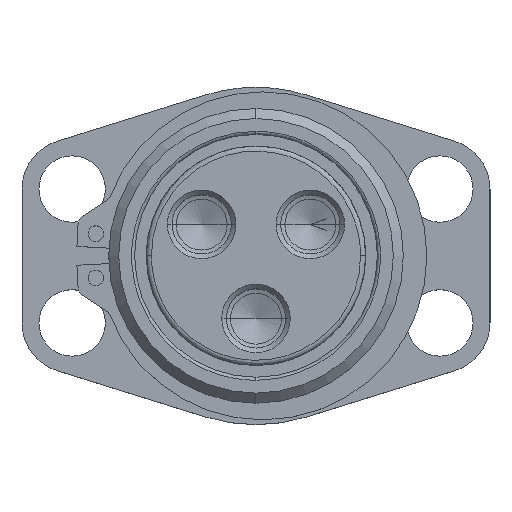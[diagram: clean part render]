
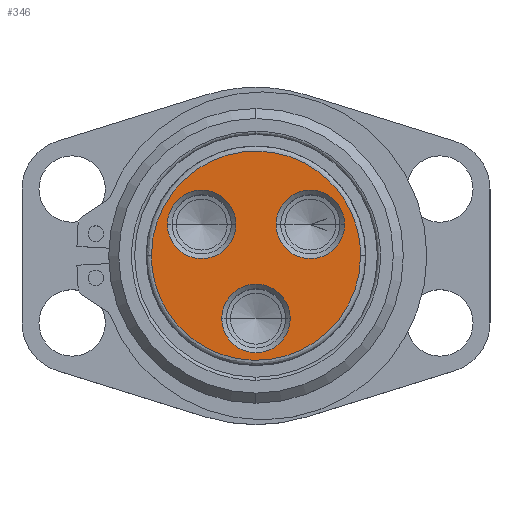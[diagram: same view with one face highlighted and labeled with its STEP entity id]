
A CAD part, top view. The second image highlights one B-rep face of the part: STEP entity #346.
In plain terms, the highlighted planar face has unit normal (0, 0, 1).
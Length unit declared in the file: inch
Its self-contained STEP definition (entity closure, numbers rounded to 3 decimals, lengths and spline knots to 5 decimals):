
#91 = EDGE_CURVE ( 'NONE', #629, #2414, #483, .T. ) ;
#121 = CARTESIAN_POINT ( 'NONE',  ( 0., -0.5, 0. ) ) ;
#156 = ORIENTED_EDGE ( 'NONE', *, *, #3775, .T. ) ;
#225 = AXIS2_PLACEMENT_3D ( 'NONE', #3165, #4596, #837 ) ;
#330 = EDGE_LOOP ( 'NONE', ( #156, #2007 ) ) ;
#346 = ADVANCED_FACE ( 'NONE', ( #3614, #2570, #5138, #1747 ), #3417, .T. ) ;
#460 = DIRECTION ( 'NONE',  ( 0., 0., -1. ) ) ;
#483 = CIRCLE ( 'NONE', #3044, 0.2731 ) ;
#505 = DIRECTION ( 'NONE',  ( 0., 0., -1. ) ) ;
#629 = VERTEX_POINT ( 'NONE', #5227 ) ;
#660 = DIRECTION ( 'NONE',  ( 1., 0., 0. ) ) ;
#689 = ORIENTED_EDGE ( 'NONE', *, *, #2689, .F. ) ;
#811 = CARTESIAN_POINT ( 'NONE',  ( -0.15991, 0.25, 0. ) ) ;
#837 = DIRECTION ( 'NONE',  ( 1., 0., 0. ) ) ;
#989 = CARTESIAN_POINT ( 'NONE',  ( -0.43301, 0.25, 0. ) ) ;
#1038 = DIRECTION ( 'NONE',  ( 1., 0., 0. ) ) ;
#1097 = DIRECTION ( 'NONE',  ( 0., 0., -1. ) ) ;
#1352 = CARTESIAN_POINT ( 'NONE',  ( -0.8341, 0., 0. ) ) ;
#1456 = DIRECTION ( 'NONE',  ( 0., 0., 1. ) ) ;
#1539 = CARTESIAN_POINT ( 'NONE',  ( 0.2731, -0.5, 0. ) ) ;
#1747 = FACE_BOUND ( 'NONE', #330, .T. ) ;
#1796 = VERTEX_POINT ( 'NONE', #3080 ) ;
#1817 = AXIS2_PLACEMENT_3D ( 'NONE', #4261, #460, #4696 ) ;
#2007 = ORIENTED_EDGE ( 'NONE', *, *, #91, .T. ) ;
#2024 = DIRECTION ( 'NONE',  ( 1., 0., 0. ) ) ;
#2249 = VERTEX_POINT ( 'NONE', #5513 ) ;
#2286 = CARTESIAN_POINT ( 'NONE',  ( 0.8341, 0., 0. ) ) ;
#2393 = CARTESIAN_POINT ( 'NONE',  ( 0., 0., 0. ) ) ;
#2414 = VERTEX_POINT ( 'NONE', #811 ) ;
#2466 = ORIENTED_EDGE ( 'NONE', *, *, #5715, .T. ) ;
#2563 = VERTEX_POINT ( 'NONE', #6201 ) ;
#2570 = FACE_BOUND ( 'NONE', #4022, .T. ) ;
#2596 = CARTESIAN_POINT ( 'NONE',  ( -0.43301, 0.25, 0. ) ) ;
#2670 = CIRCLE ( 'NONE', #6131, 0.2731 ) ;
#2689 = EDGE_CURVE ( 'NONE', #3296, #3696, #4592, .T. ) ;
#2783 = VERTEX_POINT ( 'NONE', #1539 ) ;
#2799 = AXIS2_PLACEMENT_3D ( 'NONE', #121, #1097, #4396 ) ;
#2847 = DIRECTION ( 'NONE',  ( 1., 0., 0. ) ) ;
#2882 = CARTESIAN_POINT ( 'NONE',  ( 0.43301, 0.25, 0. ) ) ;
#3044 = AXIS2_PLACEMENT_3D ( 'NONE', #989, #4795, #2847 ) ;
#3080 = CARTESIAN_POINT ( 'NONE',  ( 0.15991, 0.25, 0. ) ) ;
#3104 = CIRCLE ( 'NONE', #5376, 0.2731 ) ;
#3165 = CARTESIAN_POINT ( 'NONE',  ( 0.43301, 0.25, 0. ) ) ;
#3236 = ORIENTED_EDGE ( 'NONE', *, *, #4015, .T. ) ;
#3296 = VERTEX_POINT ( 'NONE', #5330 ) ;
#3386 = ORIENTED_EDGE ( 'NONE', *, *, #4067, .T. ) ;
#3417 = PLANE ( 'NONE',  #3901 ) ;
#3491 = CIRCLE ( 'NONE', #225, 0.2731 ) ;
#3519 = DIRECTION ( 'NONE',  ( 0., 0., -1. ) ) ;
#3614 = FACE_OUTER_BOUND ( 'NONE', #3915, .T. ) ;
#3696 = VERTEX_POINT ( 'NONE', #5262 ) ;
#3775 = EDGE_CURVE ( 'NONE', #2414, #629, #2670, .T. ) ;
#3781 = CARTESIAN_POINT ( 'NONE',  ( 0.8341, 1.6682, 0. ) ) ;
#3801 = CIRCLE ( 'NONE', #2799, 0.2731 ) ;
#3901 = AXIS2_PLACEMENT_3D ( 'NONE', #2393, #1456, #1038 ) ;
#3915 = EDGE_LOOP ( 'NONE', ( #5735, #689 ) ) ;
#4015 = EDGE_CURVE ( 'NONE', #1796, #2563, #3491, .T. ) ;
#4022 = EDGE_LOOP ( 'NONE', ( #3386, #6105 ) ) ;
#4067 = EDGE_CURVE ( 'NONE', #2783, #2249, #4622, .T. ) ;
#4261 = CARTESIAN_POINT ( 'NONE',  ( 0., -0.5, 0. ) ) ;
#4320 = CARTESIAN_POINT ( 'NONE',  ( -0.8341, 0., 0. ) ) ;
#4346 = CARTESIAN_POINT ( 'NONE',  ( 0.8341, 0., 0. ) ) ;
#4396 = DIRECTION ( 'NONE',  ( 1., 0., 0. ) ) ;
#4592 =( BOUNDED_CURVE ( )  B_SPLINE_CURVE ( 3, ( #4346, #4842, #5801, #4320 ),
 .UNSPECIFIED., .F., .F. ) 
 B_SPLINE_CURVE_WITH_KNOTS ( ( 4, 4 ),
 ( 0., 1. ),
 .UNSPECIFIED. ) 
 CURVE ( )  GEOMETRIC_REPRESENTATION_ITEM ( )  RATIONAL_B_SPLINE_CURVE ( ( 1., 0.333, 0.333, 1. ) ) 
 REPRESENTATION_ITEM ( '' )  );
#4596 = DIRECTION ( 'NONE',  ( 0., 0., -1. ) ) ;
#4622 = CIRCLE ( 'NONE', #1817, 0.2731 ) ;
#4696 = DIRECTION ( 'NONE',  ( 1., 0., 0. ) ) ;
#4795 = DIRECTION ( 'NONE',  ( 0., 0., -1. ) ) ;
#4810 = EDGE_LOOP ( 'NONE', ( #2466, #3236 ) ) ;
#4821 = EDGE_CURVE ( 'NONE', #3696, #3296, #6140, .T. ) ;
#4842 = CARTESIAN_POINT ( 'NONE',  ( 0.8341, -1.6682, 0. ) ) ;
#5138 = FACE_BOUND ( 'NONE', #4810, .T. ) ;
#5227 = CARTESIAN_POINT ( 'NONE',  ( -0.70611, 0.25, 0. ) ) ;
#5262 = CARTESIAN_POINT ( 'NONE',  ( -0.8341, 0., 0. ) ) ;
#5330 = CARTESIAN_POINT ( 'NONE',  ( 0.8341, 0., 0. ) ) ;
#5376 = AXIS2_PLACEMENT_3D ( 'NONE', #2882, #505, #2024 ) ;
#5513 = CARTESIAN_POINT ( 'NONE',  ( -0.2731, -0.5, 0. ) ) ;
#5715 = EDGE_CURVE ( 'NONE', #2563, #1796, #3104, .T. ) ;
#5735 = ORIENTED_EDGE ( 'NONE', *, *, #4821, .F. ) ;
#5801 = CARTESIAN_POINT ( 'NONE',  ( -0.8341, -1.6682, 0. ) ) ;
#5802 = EDGE_CURVE ( 'NONE', #2249, #2783, #3801, .T. ) ;
#6105 = ORIENTED_EDGE ( 'NONE', *, *, #5802, .T. ) ;
#6131 = AXIS2_PLACEMENT_3D ( 'NONE', #2596, #3519, #660 ) ;
#6140 =( BOUNDED_CURVE ( )  B_SPLINE_CURVE ( 3, ( #1352, #6189, #3781, #2286 ),
 .UNSPECIFIED., .F., .T. ) 
 B_SPLINE_CURVE_WITH_KNOTS ( ( 4, 4 ),
 ( 0., 1. ),
 .UNSPECIFIED. ) 
 CURVE ( )  GEOMETRIC_REPRESENTATION_ITEM ( )  RATIONAL_B_SPLINE_CURVE ( ( 1., 0.333, 0.333, 1. ) ) 
 REPRESENTATION_ITEM ( '' )  );
#6189 = CARTESIAN_POINT ( 'NONE',  ( -0.8341, 1.6682, 0. ) ) ;
#6201 = CARTESIAN_POINT ( 'NONE',  ( 0.70611, 0.25, 0. ) ) ;
